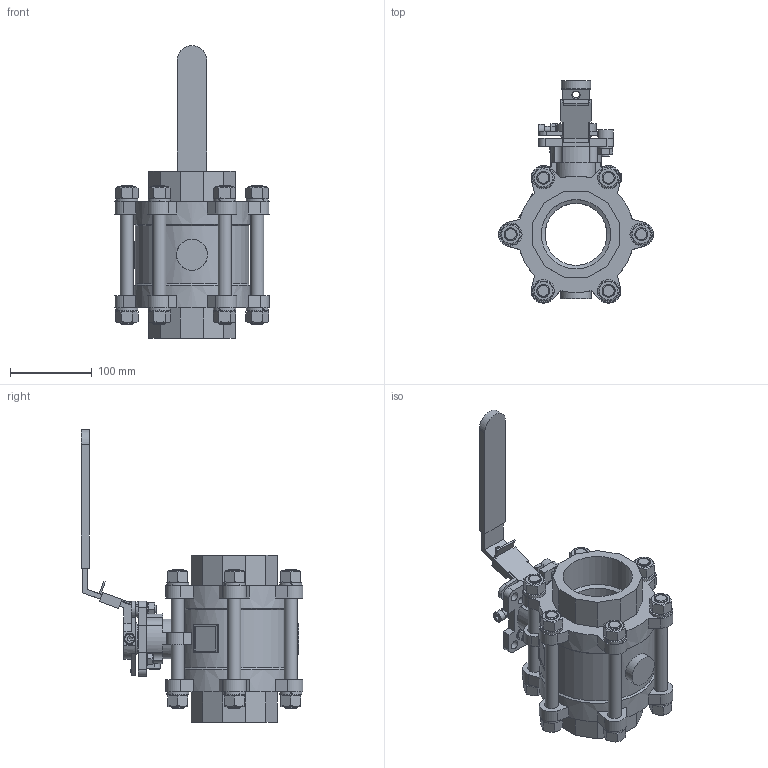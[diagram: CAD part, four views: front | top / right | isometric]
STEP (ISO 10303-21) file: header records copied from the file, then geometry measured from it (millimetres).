
FILE_DESCRIPTION(/* description */ ('Eriks item no: 13278895'),/* implementation_level */ '2;1');
FILE_NAME(/* name */ 'L:\DATA\ENG\Inventor\Econ 3D modellen\kogelkranen\7442\Rubens Versie\7442-DN80-FB.stp',/* time_stamp */ '2023-06-08T08:22:22+02:00',/* author */ ('roger.thijssen'),/* organization */ (''),/* preprocessor_version */ 'ST-DEVELOPER v18',/* originating_system */ 'Autodesk Inventor 2020',/* authorisation */ '');
FILE_SCHEMA (('CONFIG_CONTROL_DESIGN'));
Length unit declared in the file: millimetre
Products named in the file (1): Ball valve, 7442 - 3" - FB, (TF4103)
Bounding box: 189.89 x 272.12 x 359 mm (x, y, z)
Volume: 2346786.7 mm3; surface area: 325513.1 mm2
Topology: 1 solids, 1 shells, 797 faces, 2193 edges, 1433 vertices
Faces by surface type: plane 523, cylinder 171, cone 71, bspline 30, torus 2
Full cylindrical faces by diameter (mm): 6.647 x1, 8 x2, 8.4 x1, 9 x4, 10 x4, 11 x5, 12 x1, 13 x1, 16 x19, 17 x14, 19.2 x1, 38 x1, 47 x1, 55 x1, 76 x1, 84.926 x2, 139 x1, 143 x2
Entity records: 26027 total; most frequent: CARTESIAN_POINT 5665, ORIENTED_EDGE 4384, DIRECTION 4068, EDGE_CURVE 2192, VERTEX_POINT 1433, AXIS2_PLACEMENT_3D 1429, LINE 1210, VECTOR 1210
